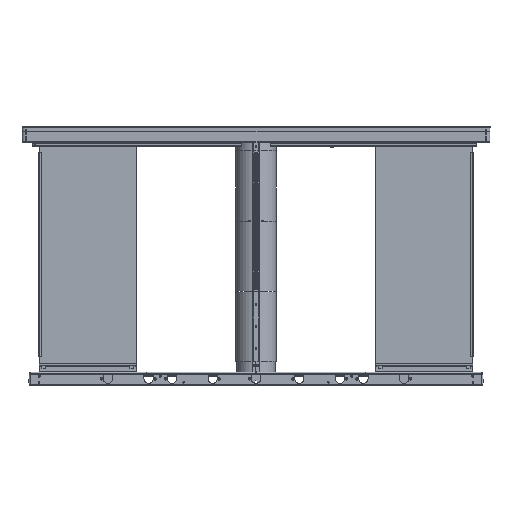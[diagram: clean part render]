
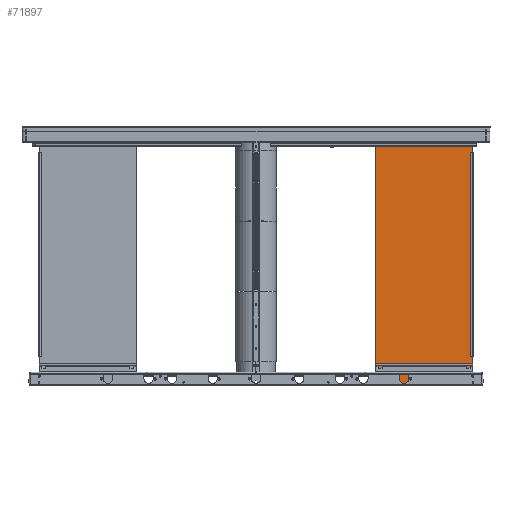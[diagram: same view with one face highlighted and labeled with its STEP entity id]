
A CAD part, top view. The second image highlights one B-rep face of the part: STEP entity #71897.
In plain terms, the highlighted planar face has unit normal (0, 0, 1) as drawn and (0, 0, -1) by its records, which use the part's own axes.
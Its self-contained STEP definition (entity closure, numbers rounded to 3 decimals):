
#755 = AXIS2_PLACEMENT_3D ( 'NONE', #9999, #77030, #34493 ) ;
#1493 = FACE_OUTER_BOUND ( 'NONE', #24323, .T. ) ;
#2867 = CARTESIAN_POINT ( 'NONE',  ( 184., -457., -6. ) ) ;
#2978 = CARTESIAN_POINT ( 'NONE',  ( -117.5, -427., -6. ) ) ;
#3829 = CIRCLE ( 'NONE', #75636, 7.5 ) ;
#5593 = EDGE_CURVE ( 'NONE', #28403, #70101, #40082, .T. ) ;
#7688 = ORIENTED_EDGE ( 'NONE', *, *, #76943, .T. ) ;
#8440 = LINE ( 'NONE', #68292, #67929 ) ;
#9426 = CIRCLE ( 'NONE', #20936, 7.5 ) ;
#9483 = VERTEX_POINT ( 'NONE', #74085 ) ;
#9685 = ORIENTED_EDGE ( 'NONE', *, *, #31603, .T. ) ;
#9999 = CARTESIAN_POINT ( 'NONE',  ( -125., -427., -6. ) ) ;
#10129 = ORIENTED_EDGE ( 'NONE', *, *, #50015, .T. ) ;
#10910 = CARTESIAN_POINT ( 'NONE',  ( -184., -457., -6. ) ) ;
#12096 = CIRCLE ( 'NONE', #33893, 7.5 ) ;
#13417 = VERTEX_POINT ( 'NONE', #2867 ) ;
#14747 = VECTOR ( 'NONE', #31348, 1000. ) ;
#15011 = CIRCLE ( 'NONE', #25297, 7.5 ) ;
#15717 = EDGE_CURVE ( 'NONE', #57994, #51019, #9426, .T. ) ;
#20936 = AXIS2_PLACEMENT_3D ( 'NONE', #60212, #48182, #46991 ) ;
#23281 = DIRECTION ( 'NONE',  ( 1., 0., 0. ) ) ;
#23897 = VERTEX_POINT ( 'NONE', #53119 ) ;
#24323 = EDGE_LOOP ( 'NONE', ( #78289, #39681, #10129, #7688 ) ) ;
#25205 = CARTESIAN_POINT ( 'NONE',  ( -185., -457.5, -6. ) ) ;
#25297 = AXIS2_PLACEMENT_3D ( 'NONE', #69940, #26620, #57559 ) ;
#25740 = DIRECTION ( 'NONE',  ( 1., 0., 0. ) ) ;
#26620 = DIRECTION ( 'NONE',  ( 0., 0., 1. ) ) ;
#28403 = VERTEX_POINT ( 'NONE', #10910 ) ;
#29299 = EDGE_CURVE ( 'NONE', #51535, #48945, #15011, .T. ) ;
#30462 = FACE_BOUND ( 'NONE', #50282, .T. ) ;
#30559 = CIRCLE ( 'NONE', #71569, 7.5 ) ;
#31348 = DIRECTION ( 'NONE',  ( 0., -1., 0. ) ) ;
#31407 = ORIENTED_EDGE ( 'NONE', *, *, #61783, .T. ) ;
#31603 = EDGE_CURVE ( 'NONE', #48945, #51535, #3829, .T. ) ;
#31903 = DIRECTION ( 'NONE',  ( 1., 0., 0. ) ) ;
#32125 = VECTOR ( 'NONE', #65437, 1000. ) ;
#33893 = AXIS2_PLACEMENT_3D ( 'NONE', #62757, #39085, #31903 ) ;
#33968 = DIRECTION ( 'NONE',  ( 1., 0., 0. ) ) ;
#34493 = DIRECTION ( 'NONE',  ( 1., 0., 0. ) ) ;
#34706 = EDGE_LOOP ( 'NONE', ( #66566, #59803 ) ) ;
#37962 = VECTOR ( 'NONE', #58153, 1000. ) ;
#38426 = CARTESIAN_POINT ( 'NONE',  ( -125., -427., -6. ) ) ;
#38461 = DIRECTION ( 'NONE',  ( 0., 0., 1. ) ) ;
#39085 = DIRECTION ( 'NONE',  ( 0., 0., 1. ) ) ;
#39681 = ORIENTED_EDGE ( 'NONE', *, *, #76793, .T. ) ;
#39952 = CARTESIAN_POINT ( 'NONE',  ( -7.5, -427., -6. ) ) ;
#40082 = LINE ( 'NONE', #51345, #37962 ) ;
#40588 = LINE ( 'NONE', #57861, #32125 ) ;
#41793 = CARTESIAN_POINT ( 'NONE',  ( 125., -427., -6. ) ) ;
#41949 = ORIENTED_EDGE ( 'NONE', *, *, #15717, .T. ) ;
#42653 = CARTESIAN_POINT ( 'NONE',  ( 7.5, -427., -6. ) ) ;
#43538 = EDGE_LOOP ( 'NONE', ( #31407, #41949 ) ) ;
#44831 = DIRECTION ( 'NONE',  ( 0., 0., 1. ) ) ;
#46991 = DIRECTION ( 'NONE',  ( 1., 0., 0. ) ) ;
#48182 = DIRECTION ( 'NONE',  ( 0., 0., 1. ) ) ;
#48945 = VERTEX_POINT ( 'NONE', #78959 ) ;
#50015 = EDGE_CURVE ( 'NONE', #9483, #13417, #56248, .T. ) ;
#50282 = EDGE_LOOP ( 'NONE', ( #9685, #72325 ) ) ;
#50519 = PLANE ( 'NONE',  #57260 ) ;
#51019 = VERTEX_POINT ( 'NONE', #39952 ) ;
#51345 = CARTESIAN_POINT ( 'NONE',  ( -184., -457.5, -6. ) ) ;
#51535 = VERTEX_POINT ( 'NONE', #67472 ) ;
#53119 = CARTESIAN_POINT ( 'NONE',  ( -132.5, -427., -6. ) ) ;
#56163 = DIRECTION ( 'NONE',  ( 1., 0., 0. ) ) ;
#56248 = LINE ( 'NONE', #73869, #14747 ) ;
#57260 = AXIS2_PLACEMENT_3D ( 'NONE', #25205, #38461, #56163 ) ;
#57559 = DIRECTION ( 'NONE',  ( 1., 0., 0. ) ) ;
#57861 = CARTESIAN_POINT ( 'NONE',  ( -185., -457., -6. ) ) ;
#57994 = VERTEX_POINT ( 'NONE', #42653 ) ;
#58153 = DIRECTION ( 'NONE',  ( 0., 1., 0. ) ) ;
#59803 = ORIENTED_EDGE ( 'NONE', *, *, #66622, .T. ) ;
#60212 = CARTESIAN_POINT ( 'NONE',  ( 0., -427., -6. ) ) ;
#61783 = EDGE_CURVE ( 'NONE', #51019, #57994, #12096, .T. ) ;
#62757 = CARTESIAN_POINT ( 'NONE',  ( 0., -427., -6. ) ) ;
#65437 = DIRECTION ( 'NONE',  ( -1., 0., 0. ) ) ;
#65861 = DIRECTION ( 'NONE',  ( 0., 0., 1. ) ) ;
#66566 = ORIENTED_EDGE ( 'NONE', *, *, #71615, .T. ) ;
#66622 = EDGE_CURVE ( 'NONE', #75257, #23897, #30559, .T. ) ;
#67472 = CARTESIAN_POINT ( 'NONE',  ( 132.5, -427., -6. ) ) ;
#67771 = FACE_BOUND ( 'NONE', #34706, .T. ) ;
#67929 = VECTOR ( 'NONE', #25740, 1000. ) ;
#68292 = CARTESIAN_POINT ( 'NONE',  ( -185., 457., -6. ) ) ;
#69940 = CARTESIAN_POINT ( 'NONE',  ( 125., -427., -6. ) ) ;
#70101 = VERTEX_POINT ( 'NONE', #77898 ) ;
#71569 = AXIS2_PLACEMENT_3D ( 'NONE', #38426, #44831, #33968 ) ;
#71615 = EDGE_CURVE ( 'NONE', #23897, #75257, #77667, .T. ) ;
#71897 = ADVANCED_FACE ( 'NONE', ( #30462, #74964, #67771, #1493 ), #50519, .F. ) ;
#72325 = ORIENTED_EDGE ( 'NONE', *, *, #29299, .T. ) ;
#73869 = CARTESIAN_POINT ( 'NONE',  ( 184., -457.5, -6. ) ) ;
#74085 = CARTESIAN_POINT ( 'NONE',  ( 184., 457., -6. ) ) ;
#74964 = FACE_BOUND ( 'NONE', #43538, .T. ) ;
#75257 = VERTEX_POINT ( 'NONE', #2978 ) ;
#75636 = AXIS2_PLACEMENT_3D ( 'NONE', #41793, #65861, #23281 ) ;
#76793 = EDGE_CURVE ( 'NONE', #70101, #9483, #8440, .T. ) ;
#76943 = EDGE_CURVE ( 'NONE', #13417, #28403, #40588, .T. ) ;
#77030 = DIRECTION ( 'NONE',  ( 0., 0., 1. ) ) ;
#77667 = CIRCLE ( 'NONE', #755, 7.5 ) ;
#77898 = CARTESIAN_POINT ( 'NONE',  ( -184., 457., -6. ) ) ;
#78289 = ORIENTED_EDGE ( 'NONE', *, *, #5593, .T. ) ;
#78959 = CARTESIAN_POINT ( 'NONE',  ( 117.5, -427., -6. ) ) ;
